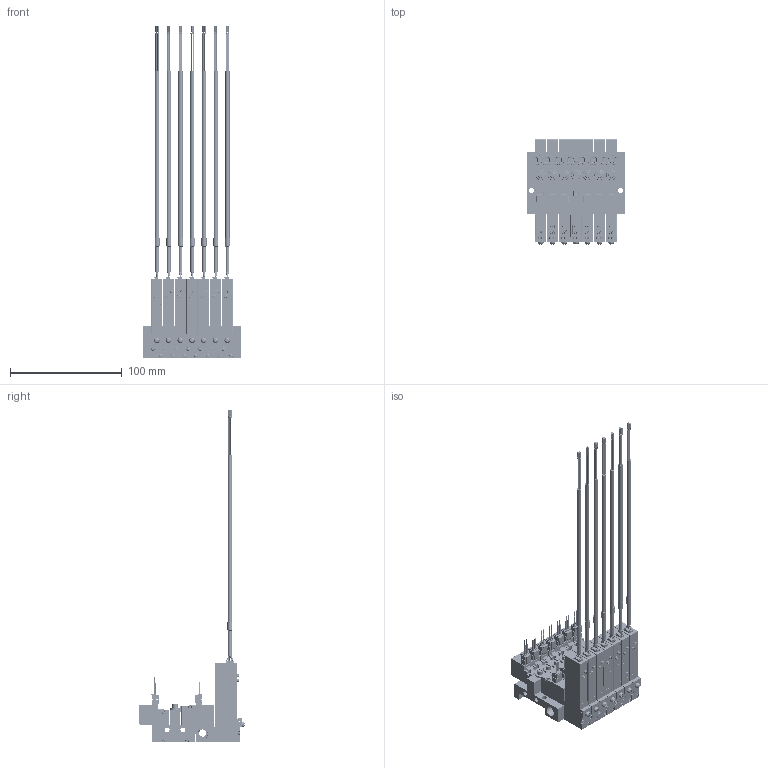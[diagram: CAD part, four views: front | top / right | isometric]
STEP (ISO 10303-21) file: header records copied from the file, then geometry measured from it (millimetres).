
FILE_DESCRIPTION(('STEP AP203'),'1');
FILE_NAME('2-NO(NC)-4EZ-M07-V9.stp','2025-05-09T00:54:40',(' '),(' '),'Spatial InterOp 3D',' ',' ');
FILE_SCHEMA(('CONFIG_CONTROL_DESIGN'));
Length unit declared in the file: millimetre
Products named in the file (205): PV1※2-NO(NC)-4EZ-M07-V9; BODY; PLATE; NEEDLE; BOLT; SOLENOID VALVE VOLTAGE PV; 42; 45; 48; 51; BRAKET(MPS-V9  PV용)NEW; BRAKET; MPS-V9AC.ics; __1; MPS-V9AC; MSBR-29_1; MSBR-28_1; MSBR-27_1; MSBR-26_1; MSBR-25_1; MSBR-24_1; MSBR-21_1; MSBR-7_1; MSBR-4_1; MSBR-1_1; SOLENOID VALVE VOLTAGE PV-NC2
Assembly tree (204 placements, depth 5):
  PV1※2-NO(NC)-4EZ-M07-V9
    BODY
    PLATE
    PLATE
    NEEDLE
    BOLT
    BOLT
    BOLT
    BOLT
    BOLT
    BOLT
    SOLENOID VALVE VOLTAGE PV
      42
      45
      48
      51
    NEEDLE
    SOLENOID VALVE VOLTAGE PV
      42
      45
      48
      51
    NEEDLE
    SOLENOID VALVE VOLTAGE PV
      42
      45
      48
      51
    PLATE
    BOLT
    BOLT
    BOLT
    PLATE
    BOLT
    BOLT
    BOLT
    NEEDLE
    SOLENOID VALVE VOLTAGE PV
      42
      45
      48
      51
    NEEDLE
    SOLENOID VALVE VOLTAGE PV
      42
      45
      48
      51
    PLATE
    BOLT
    BOLT
    BOLT
    SOLENOID VALVE VOLTAGE PV
      42
      45
      48
      51
    NEEDLE
    PLATE
    BOLT
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Bounding box: 87 x 94.29 x 297.25 mm (x, y, z)
Volume: 195595.9 mm3; surface area: 168393.3 mm2
Topology: 169 solids, 232 shells, 8572 faces, 23295 edges, 15679 vertices
Faces by surface type: plane 6687, cylinder 1442, torus 161, bspline 105, cone 79, extrusion 70, sphere 28
Full cylindrical faces by diameter (mm): 1.4 x14, 2 x21, 2.3 x14, 2.5 x7, 3 x49, 3.5 x7, 4.2 x16, 4.5 x2, 5 x14, 6.5 x1, 8.797 x2, 9 x7
Entity records: 281328 total; most frequent: CARTESIAN_POINT 54117, ORIENTED_EDGE 45044, DIRECTION 43599, EDGE_CURVE 22788, VECTOR 17767, LINE 17697, VERTEX_POINT 15510, AXIS2_PLACEMENT_3D 12916
